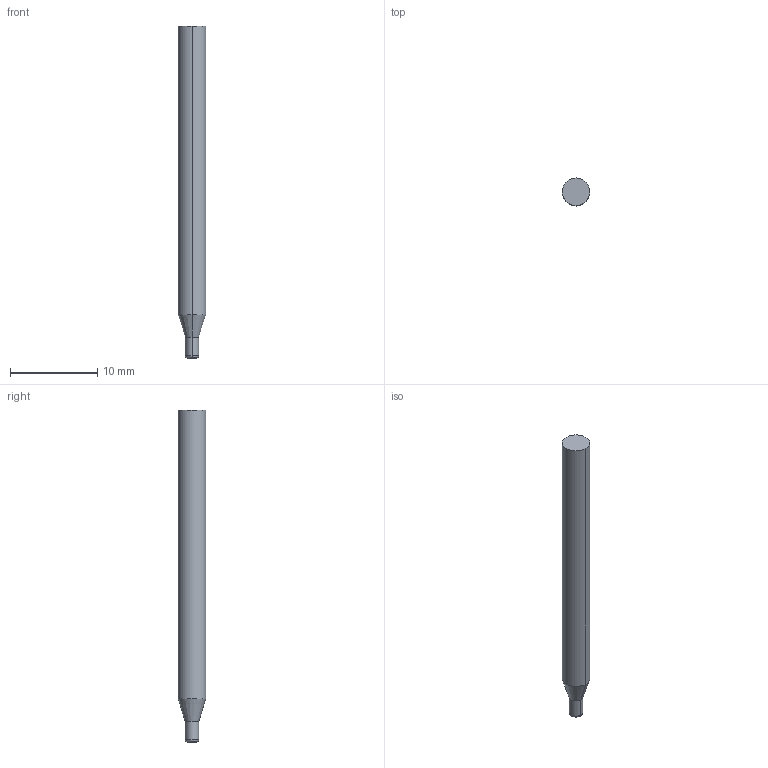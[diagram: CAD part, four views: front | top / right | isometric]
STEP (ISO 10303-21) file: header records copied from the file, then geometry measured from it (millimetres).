
FILE_DESCRIPTION((' '),'2;1');
FILE_NAME( '3MVS0625R.010AH.stp', '2026-01-21T19:08:10', (' '), ('--- Datakit www.datakit.com---'), ' Datakit CrossCadWare V2025.4 Sep 19 2025', 'Mastercam 2027', ' ');
FILE_SCHEMA(('AUTOMOTIVE_DESIGN { 1 0 10303 214 1 1 1 1 }'));
Length unit declared in the file: inch
Products named in the file (1): 3MVS0625R
Bounding box: 3.17 x 3.17 x 38.1 mm (x, y, z)
Volume: 278.8 mm3; surface area: 371.9 mm2
Topology: 1 solids, 1 shells, 10 faces, 18 edges, 10 vertices
Faces by surface type: cylinder 4, plane 2, torus 2, cone 2
Entity records: 318 total; most frequent: DIRECTION 60, CARTESIAN_POINT 43, ORIENTED_EDGE 36, AXIS2_PLACEMENT_3D 27, EDGE_CURVE 18, CIRCLE 12, VERTEX_POINT 10, EDGE_LOOP 10
